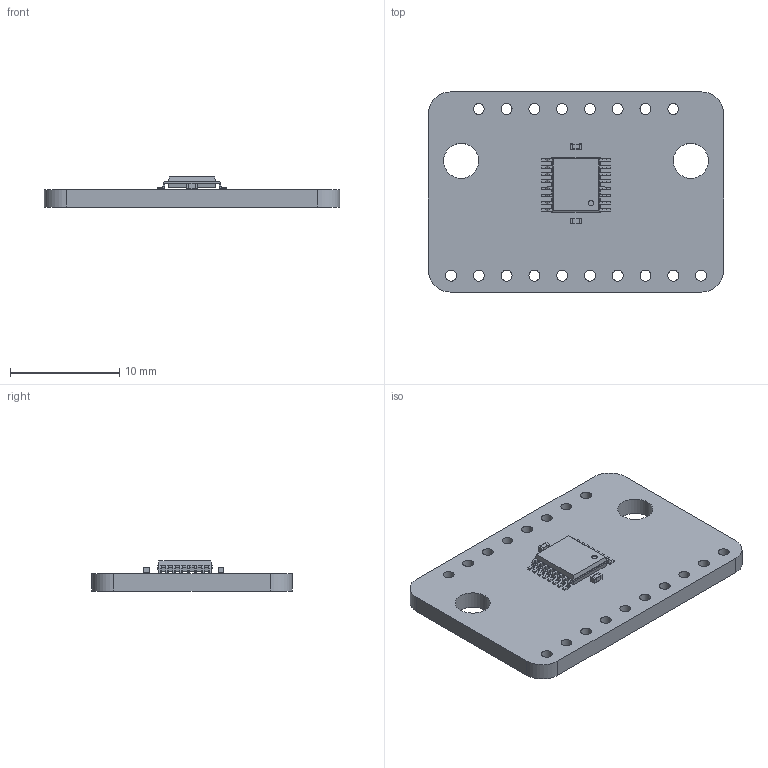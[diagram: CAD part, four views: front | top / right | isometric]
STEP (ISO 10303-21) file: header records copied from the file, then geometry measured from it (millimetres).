
FILE_DESCRIPTION(('KiCad electronic assembly'),'2;1');
FILE_NAME('KAmod-Multi4051.step','2024-11-25T15:50:22',('Pcbnew'),( 'Kicad'),'Open CASCADE STEP processor 7.8','KiCad to STEP converter' ,'Unknown');
FILE_SCHEMA(('AUTOMOTIVE_DESIGN { 1 0 10303 214 1 1 1 1 }'));
Length unit declared in the file: millimetre
Products named in the file (6): KAmod-Multi4051 1; TSSOP-16_4.4x5mm_P0.65mm; TSSOP_16_44x5mm_P065mm; C_0402_1005Metric; KAmod-Multi4051_PCB
Assembly tree (6 placements, depth 3):
  KAmod-Multi4051 1
    TSSOP-16_4.4x5mm_P0.65mm
      TSSOP_16_44x5mm_P065mm
    C_0402_1005Metric  x2
      C_0402_1005Metric
    KAmod-Multi4051_PCB
Bounding box: 27 x 18.3 x 2.75 mm (x, y, z)
Volume: 759 mm3; surface area: 1266 mm2
Topology: 4 solids, 4 shells, 346 faces, 923 edges, 590 vertices
Faces by surface type: plane 205, cylinder 113, bspline 28
Full cylindrical faces by diameter (mm): 0.5 x1, 1 x18, 3.2 x2
Entity records: 12009 total; most frequent: CARTESIAN_POINT 1818, ORIENTED_EDGE 1702, DIRECTION 1631, EDGE_CURVE 851, LINE 633, VECTOR 633, VERTEX_POINT 542, AXIS2_PLACEMENT_3D 499
